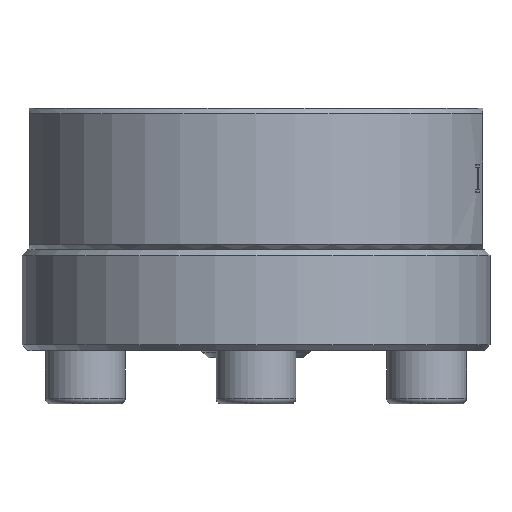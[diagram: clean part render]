
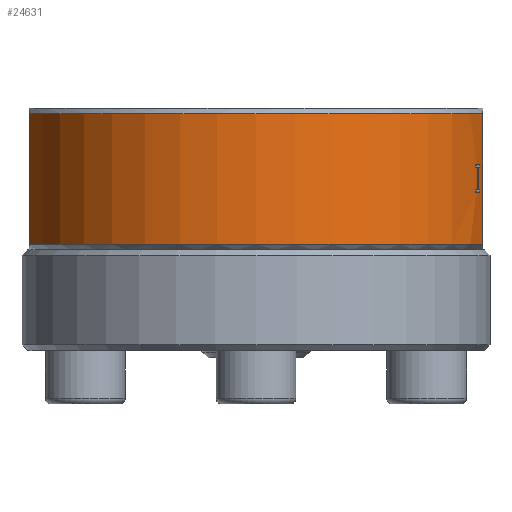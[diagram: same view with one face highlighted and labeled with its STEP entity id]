
A CAD part, front view. The second image highlights one B-rep face of the part: STEP entity #24631.
In plain terms, the highlighted cylindrical face has radius 41.91 mm (diameter 83.82 mm), a partial arc.
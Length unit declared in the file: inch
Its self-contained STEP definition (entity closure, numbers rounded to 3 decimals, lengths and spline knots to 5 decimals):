
#167=FACE_BOUND('',#3703,.T.);
#2326=FACE_OUTER_BOUND('',#3702,.T.);
#3702=EDGE_LOOP('',(#20180,#20181,#20182,#20183));
#3703=EDGE_LOOP('',(#20184,#20185,#20186,#20187,#20188,#20189,#20190,#20191,
#20192,#20193,#20194,#20195));
#4522=LINE('',#33404,#7603);
#4525=LINE('',#33412,#7606);
#4528=LINE('',#33420,#7609);
#4531=LINE('',#33428,#7612);
#4534=LINE('',#33436,#7615);
#4537=LINE('',#33444,#7618);
#5971=LINE('',#37377,#9052);
#5975=LINE('',#37443,#9056);
#7603=VECTOR('',#26933,0.3937);
#7606=VECTOR('',#26942,0.3937);
#7609=VECTOR('',#26951,0.3937);
#7612=VECTOR('',#26960,0.3937);
#7615=VECTOR('',#26969,0.3937);
#7618=VECTOR('',#26978,0.3937);
#9052=VECTOR('',#29500,0.3937);
#9056=VECTOR('',#29542,0.3937);
#10674=CIRCLE('',#25421,1.65);
#10675=CIRCLE('',#25424,1.65);
#10676=CIRCLE('',#25427,1.65);
#10677=CIRCLE('',#25430,1.65);
#10678=CIRCLE('',#25433,1.65);
#10679=CIRCLE('',#25436,1.65);
#10711=CIRCLE('',#25977,1.65);
#10719=CIRCLE('',#25996,1.65);
#10931=VERTEX_POINT('',#33401);
#10932=VERTEX_POINT('',#33403);
#10933=VERTEX_POINT('',#33407);
#10934=VERTEX_POINT('',#33411);
#10935=VERTEX_POINT('',#33415);
#10936=VERTEX_POINT('',#33419);
#10937=VERTEX_POINT('',#33423);
#10938=VERTEX_POINT('',#33427);
#10939=VERTEX_POINT('',#33431);
#10940=VERTEX_POINT('',#33435);
#10941=VERTEX_POINT('',#33439);
#10942=VERTEX_POINT('',#33443);
#11985=VERTEX_POINT('',#37354);
#11986=VERTEX_POINT('',#37358);
#11989=VERTEX_POINT('',#37373);
#11999=VERTEX_POINT('',#37437);
#13340=EDGE_CURVE('',#10932,#10931,#4522,.T.);
#13342=EDGE_CURVE('',#10933,#10932,#10674,.T.);
#13344=EDGE_CURVE('',#10934,#10933,#4525,.T.);
#13346=EDGE_CURVE('',#10935,#10934,#10675,.T.);
#13348=EDGE_CURVE('',#10936,#10935,#4528,.T.);
#13350=EDGE_CURVE('',#10937,#10936,#10676,.T.);
#13352=EDGE_CURVE('',#10938,#10937,#4531,.T.);
#13354=EDGE_CURVE('',#10939,#10938,#10677,.T.);
#13356=EDGE_CURVE('',#10940,#10939,#4534,.T.);
#13358=EDGE_CURVE('',#10941,#10940,#10678,.T.);
#13360=EDGE_CURVE('',#10942,#10941,#4537,.T.);
#13362=EDGE_CURVE('',#10931,#10942,#10679,.T.);
#14920=EDGE_CURVE('',#11985,#11986,#10711,.T.);
#14926=EDGE_CURVE('',#11985,#11989,#5971,.T.);
#14948=EDGE_CURVE('',#11999,#11989,#10719,.T.);
#14949=EDGE_CURVE('',#11999,#11986,#5975,.T.);
#20180=ORIENTED_EDGE('',*,*,#14920,.F.);
#20181=ORIENTED_EDGE('',*,*,#14926,.T.);
#20182=ORIENTED_EDGE('',*,*,#14948,.F.);
#20183=ORIENTED_EDGE('',*,*,#14949,.T.);
#20184=ORIENTED_EDGE('',*,*,#13340,.T.);
#20185=ORIENTED_EDGE('',*,*,#13362,.T.);
#20186=ORIENTED_EDGE('',*,*,#13360,.T.);
#20187=ORIENTED_EDGE('',*,*,#13358,.T.);
#20188=ORIENTED_EDGE('',*,*,#13356,.T.);
#20189=ORIENTED_EDGE('',*,*,#13354,.T.);
#20190=ORIENTED_EDGE('',*,*,#13352,.T.);
#20191=ORIENTED_EDGE('',*,*,#13350,.T.);
#20192=ORIENTED_EDGE('',*,*,#13348,.T.);
#20193=ORIENTED_EDGE('',*,*,#13346,.T.);
#20194=ORIENTED_EDGE('',*,*,#13344,.T.);
#20195=ORIENTED_EDGE('',*,*,#13342,.T.);
#23992=CYLINDRICAL_SURFACE('',#25997,1.65);
#24631=ADVANCED_FACE('',(#2326,#167),#23992,.T.);
#25421=AXIS2_PLACEMENT_3D('',#33408,#26937,#26938);
#25424=AXIS2_PLACEMENT_3D('',#33416,#26946,#26947);
#25427=AXIS2_PLACEMENT_3D('',#33424,#26955,#26956);
#25430=AXIS2_PLACEMENT_3D('',#33432,#26964,#26965);
#25433=AXIS2_PLACEMENT_3D('',#33440,#26973,#26974);
#25436=AXIS2_PLACEMENT_3D('',#33447,#26982,#26983);
#25977=AXIS2_PLACEMENT_3D('',#37359,#29495,#29496);
#25996=AXIS2_PLACEMENT_3D('',#37441,#29538,#29539);
#25997=AXIS2_PLACEMENT_3D('',#37442,#29540,#29541);
#26933=DIRECTION('',(0.,0.,-1.));
#26937=DIRECTION('center_axis',(0.,0.,
1.));
#26938=DIRECTION('ref_axis',(1.,0.,0.));
#26942=DIRECTION('',(0.,0.,-1.));
#26946=DIRECTION('center_axis',(0.,0.,
-1.));
#26947=DIRECTION('ref_axis',(1.,0.,0.));
#26951=DIRECTION('',(0.,0.,-1.));
#26955=DIRECTION('center_axis',(0.,0.,
1.));
#26956=DIRECTION('ref_axis',(1.,0.,0.));
#26960=DIRECTION('',(0.,0.,1.));
#26964=DIRECTION('center_axis',(0.,0.,
-1.));
#26965=DIRECTION('ref_axis',(1.,0.,0.));
#26969=DIRECTION('',(0.,0.,1.));
#26973=DIRECTION('center_axis',(0.,0.,
1.));
#26974=DIRECTION('ref_axis',(1.,0.,0.));
#26978=DIRECTION('',(0.,0.,1.));
#26982=DIRECTION('center_axis',(0.,0.,
-1.));
#26983=DIRECTION('ref_axis',(1.,0.,0.));
#29495=DIRECTION('center_axis',(0.,0.,
-1.));
#29496=DIRECTION('ref_axis',(1.,0.,0.));
#29500=DIRECTION('',(0.,0.,1.));
#29538=DIRECTION('center_axis',(0.,0.,
1.));
#29539=DIRECTION('ref_axis',(1.,0.,0.));
#29540=DIRECTION('center_axis',(0.,0.,
-1.));
#29541=DIRECTION('ref_axis',(1.,0.,0.));
#29542=DIRECTION('',(0.,0.,-1.));
#33401=CARTESIAN_POINT('',(1.56921,-1.01428,-0.09678));
#33403=CARTESIAN_POINT('',(1.56921,-1.01428,-0.07635));
#33404=CARTESIAN_POINT('',(1.56921,-1.01428,0.));
#33407=CARTESIAN_POINT('',(1.56152,-1.03854,-0.07635));
#33408=CARTESIAN_POINT('Origin',(-0.00747,-0.52788,
-0.07635));
#33411=CARTESIAN_POINT('',(1.56152,-1.03854,0.0828));
#33412=CARTESIAN_POINT('',(1.56152,-1.03854,0.));
#33415=CARTESIAN_POINT('',(1.56921,-1.01428,0.0828));
#33416=CARTESIAN_POINT('Origin',(-0.00747,-0.52788,
0.0828));
#33419=CARTESIAN_POINT('',(1.56921,-1.01428,0.10322));
#33420=CARTESIAN_POINT('',(1.56921,-1.01428,0.));
#33423=CARTESIAN_POINT('',(1.54464,-1.08775,0.10322));
#33424=CARTESIAN_POINT('Origin',(-0.00747,-0.52788,
0.10322));
#33427=CARTESIAN_POINT('',(1.54464,-1.08775,0.0828));
#33428=CARTESIAN_POINT('',(1.54464,-1.08775,0.));
#33431=CARTESIAN_POINT('',(1.55309,-1.06375,0.0828));
#33432=CARTESIAN_POINT('Origin',(-0.00747,-0.52788,
0.0828));
#33435=CARTESIAN_POINT('',(1.55309,-1.06375,-0.07635));
#33436=CARTESIAN_POINT('',(1.55309,-1.06375,0.));
#33439=CARTESIAN_POINT('',(1.54464,-1.08775,-0.07635));
#33440=CARTESIAN_POINT('Origin',(-0.00747,-0.52788,
-0.07635));
#33443=CARTESIAN_POINT('',(1.54464,-1.08775,-0.09678));
#33444=CARTESIAN_POINT('',(1.54464,-1.08775,0.));
#33447=CARTESIAN_POINT('Origin',(-0.00747,-0.52788,
-0.09678));
#37354=CARTESIAN_POINT('',(1.59253,-0.93099,-0.46));
#37358=CARTESIAN_POINT('',(-1.60747,-0.93099,-0.46));
#37359=CARTESIAN_POINT('Origin',(-0.00747,-0.52788,
-0.46));
#37373=CARTESIAN_POINT('',(1.59253,-0.93099,0.46));
#37377=CARTESIAN_POINT('',(1.59253,-0.93099,0.));
#37437=CARTESIAN_POINT('',(-1.60747,-0.93099,0.46));
#37441=CARTESIAN_POINT('Origin',(-0.00747,-0.52788,
0.46));
#37442=CARTESIAN_POINT('Origin',(-0.00747,-0.52788,
0.));
#37443=CARTESIAN_POINT('',(-1.60747,-0.93099,0.));
